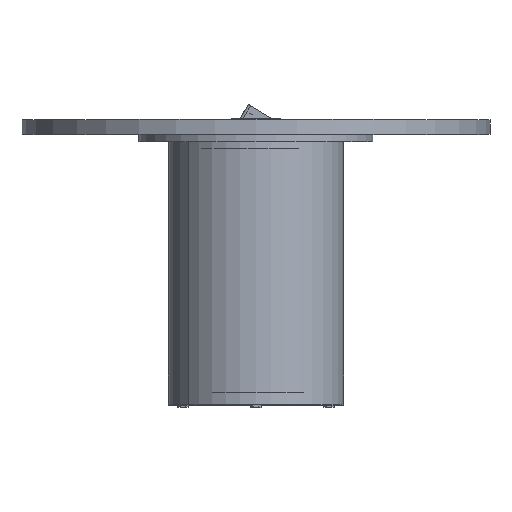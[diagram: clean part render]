
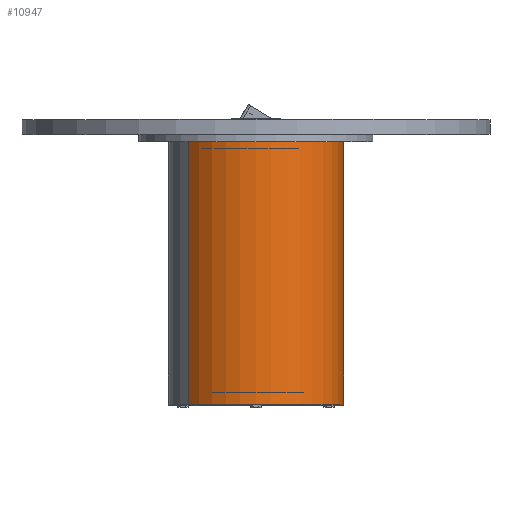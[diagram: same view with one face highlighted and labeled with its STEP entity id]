
A CAD part, top view. The second image highlights one B-rep face of the part: STEP entity #10947.
In plain terms, the highlighted cylindrical face has radius 228.6 mm (diameter 457.2 mm), a partial arc.
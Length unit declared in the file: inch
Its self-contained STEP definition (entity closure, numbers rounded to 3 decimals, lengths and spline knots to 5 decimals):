
#1451=FACE_OUTER_BOUND('',#2019,.T.);
#2019=EDGE_LOOP('',(#7393,#7394,#7395,#7396));
#2645=LINE('',#16772,#3576);
#2646=LINE('',#16778,#3577);
#3576=VECTOR('',#13400,0.3937);
#3577=VECTOR('',#13407,0.3937);
#4500=CIRCLE('',#12028,9.);
#4501=CIRCLE('',#12029,9.);
#4997=VERTEX_POINT('',#16765);
#5000=VERTEX_POINT('',#16770);
#5001=VERTEX_POINT('',#16774);
#5002=VERTEX_POINT('',#16776);
#5936=EDGE_CURVE('',#4997,#5000,#2645,.T.);
#5937=EDGE_CURVE('',#5001,#4997,#4500,.T.);
#5938=EDGE_CURVE('',#5002,#5000,#4501,.T.);
#5939=EDGE_CURVE('',#5001,#5002,#2646,.T.);
#7393=ORIENTED_EDGE('',*,*,#5937,.T.);
#7394=ORIENTED_EDGE('',*,*,#5936,.T.);
#7395=ORIENTED_EDGE('',*,*,#5938,.F.);
#7396=ORIENTED_EDGE('',*,*,#5939,.F.);
#9985=CYLINDRICAL_SURFACE('',#12027,9.);
#10947=ADVANCED_FACE('',(#1451),#9985,.T.);
#12027=AXIS2_PLACEMENT_3D('',#16773,#13401,#13402);
#12028=AXIS2_PLACEMENT_3D('',#16775,#13403,#13404);
#12029=AXIS2_PLACEMENT_3D('',#16777,#13405,#13406);
#13400=DIRECTION('',(0.,-1.,0.));
#13401=DIRECTION('center_axis',(0.,-1.,0.));
#13402=DIRECTION('ref_axis',(1.,0.,0.));
#13403=DIRECTION('center_axis',(0.,-1.,0.));
#13404=DIRECTION('ref_axis',(1.,0.,0.));
#13405=DIRECTION('center_axis',(0.,-1.,0.));
#13406=DIRECTION('ref_axis',(1.,0.,0.));
#13407=DIRECTION('',(0.,-1.,0.));
#16765=CARTESIAN_POINT('',(-6.92369,-0.75,5.75));
#16770=CARTESIAN_POINT('',(-6.92369,-27.75,5.75));
#16772=CARTESIAN_POINT('',(-6.92369,-0.75,5.75));
#16773=CARTESIAN_POINT('Origin',(0.,-0.75,0.));
#16774=CARTESIAN_POINT('',(-6.92369,-0.75,-5.75));
#16775=CARTESIAN_POINT('Origin',(0.,-0.75,0.));
#16776=CARTESIAN_POINT('',(-6.92369,-27.75,-5.75));
#16777=CARTESIAN_POINT('Origin',(0.,-27.75,0.));
#16778=CARTESIAN_POINT('',(-6.92369,-0.75,-5.75));
